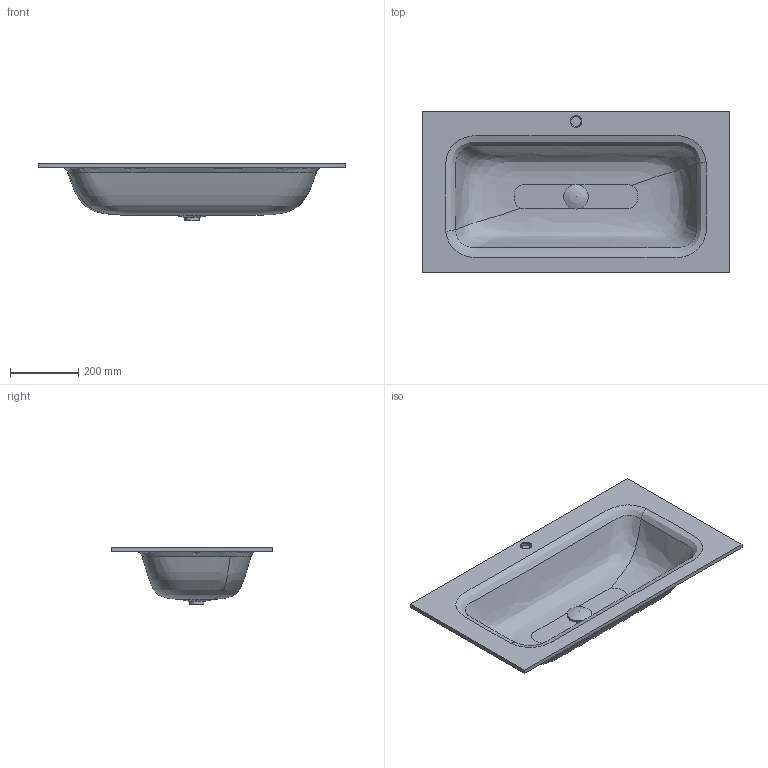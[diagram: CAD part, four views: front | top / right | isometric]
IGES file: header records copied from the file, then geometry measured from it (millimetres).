
Start section: Data from Parasolid IGES Translator 19.0.9, Copyright(c) 2006 Siemens PL M Software. All Rights Reserved.
Global section: file name: noorth-top-H 1,2 D 47,3 W 90_4781.igs; native system: By Siemens PLM Incorporated; preprocessor: XPlus GENERIC/IGES 19.0.9; author: Noname; organization: Noname; date: 20200603.103638; units: metre
Bounding box: 900 x 473 x 166.92 mm (x, y, z)
Volume: 6205230.9 mm3; surface area: 1196748.8 mm2
Topology: 4 solids, 4 shells, 64 faces, 187 edges, 134 vertices
Faces by surface type: plane 20, bspline 17, revolution 13, cylinder 10, extrusion 3, cone 1
Full cylindrical faces by diameter (mm): 0.043 x1, 19.989 x1, 30 x1, 50 x1, 62.239 x1, 71.973 x1
